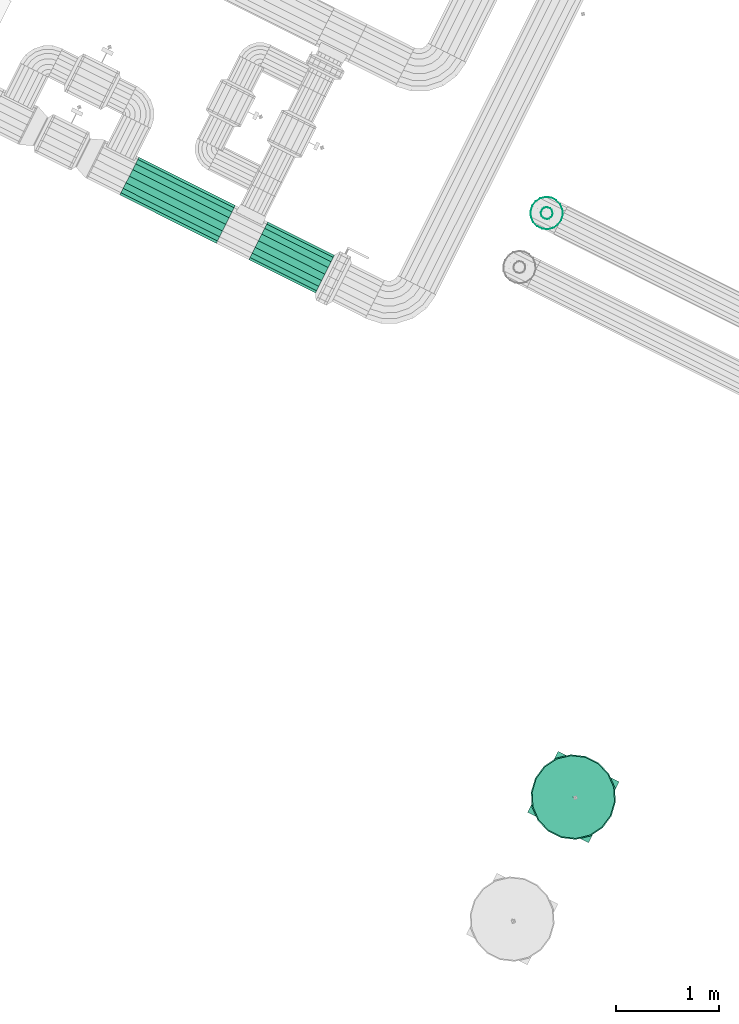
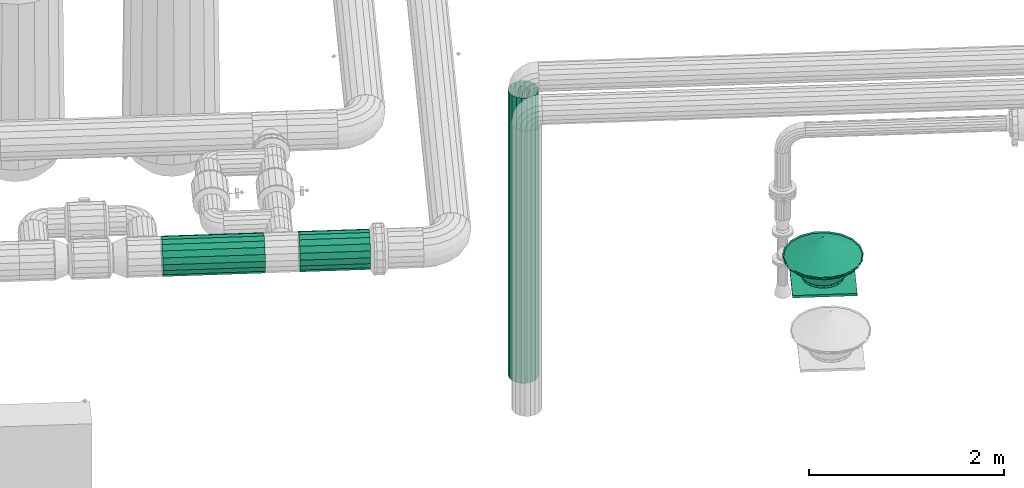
# One storey, part 3 of 152: 3 flow segments, 1 flow moving device.
"""IFC2X3 building model written with IfcOpenShell, lengths in metres."""

from ifc_helpers import new_model, si_unit, derived_unit, direction, frame, origin, place, context, subcontext, project, spatial, face_set, surface_model, source, transform, mapped, material, type_object, type_shapes, element, save


model = new_model("IFC2X3")

# Units and contexts
model_context = context("Model", 3, precision=5.2338327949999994e-05, world=origin(), true_north=direction((0.0, 1.0)))
body_context = subcontext(model_context, "Body", "Model", "MODEL_VIEW")
ifc_project = project(units=[si_unit("LENGTHUNIT", "METRE"), si_unit("AREAUNIT", "SQUARE_METRE"), si_unit("VOLUMEUNIT", "CUBIC_METRE"), si_unit("MASSUNIT", "GRAM", prefix="KILO"), si_unit("PLANEANGLEUNIT", "RADIAN"), derived_unit("THERMALTRANSMITTANCEUNIT", [(si_unit("MASSUNIT", "GRAM", prefix="KILO"), 1), (si_unit("THERMODYNAMICTEMPERATUREUNIT", "KELVIN"), -1), (si_unit("TIMEUNIT", "SECOND"), -3)])], contexts=[model_context])

# Site, building, storey
site_placement = place(None, frame((0.0, 0.0, 0.0), z_axis=(0.0, 0.0, 1.0), x_axis=(0.8939966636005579, -0.4480736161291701, 0.0)))
site = spatial("IfcSite", under=ifc_project, at=site_placement, Name="Default", CompositionType="ELEMENT")
building_placement = place(site_placement, origin())
building = spatial("IfcBuilding", under=site, at=building_placement, CompositionType="ELEMENT")
storey_placement = place(building_placement, frame((0.0, 0.0, 2.7499999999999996)))
storey = spatial("IfcBuildingStorey", under=building, at=storey_placement, Name="1. Obergeschoss", CompositionType="ELEMENT", Elevation=2.7499999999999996)

# Flow segments
ifc_material_1 = material(Name="IfcSurfaceStyle #1741")
distribution_element_type_1 = type_object("IfcDistributionElementType", Name="Stahlrohr nach DIN 2448:Stahlrohr nach DIN 2448", material=ifc_material_1)
shared_shape_1 = source(origin(), body_context, "Body", "SurfaceModel", [
    surface_model("IfcFaceBasedSurfaceModel", [(17.5690824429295, 7.355919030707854, 2.95), (17.57252900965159, 7.336372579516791, 2.95), (17.57252900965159, 7.336372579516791, 6.518000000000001), (17.5690824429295, 7.355919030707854, 6.518000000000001), (17.582453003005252, 7.319183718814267, 2.95), (17.582453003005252, 7.319183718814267, 6.518000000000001), (17.5976574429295, 7.306425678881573, 2.95), (17.5976574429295, 7.306425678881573, 6.518000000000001), (17.616308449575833, 7.299637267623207, 2.95), (17.616308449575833, 7.299637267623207, 6.518000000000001), (17.636156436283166, 7.299637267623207, 2.95), (17.636156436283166, 7.299637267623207, 6.518000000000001), (17.654807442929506, 7.306425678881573, 2.95), (17.654807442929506, 7.306425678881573, 6.518000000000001), (17.67001188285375, 7.319183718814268, 2.95), (17.67001188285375, 7.319183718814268, 6.518000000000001), (17.679935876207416, 7.336372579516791, 2.95), (17.679935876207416, 7.336372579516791, 6.518000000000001), (17.6833824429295, 7.355919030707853, 2.95), (17.6833824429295, 7.355919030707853, 6.518000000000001), (17.679935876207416, 7.375465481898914, 2.95), (17.679935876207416, 7.375465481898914, 6.518000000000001), (17.67001188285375, 7.392654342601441, 2.95), (17.67001188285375, 7.392654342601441, 6.518000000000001), (17.654807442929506, 7.405412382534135, 2.95), (17.654807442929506, 7.405412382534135, 6.518000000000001), (17.63615643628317, 7.412200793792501, 2.95), (17.63615643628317, 7.412200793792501, 6.518000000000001), (17.616308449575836, 7.4122007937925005, 2.95), (17.616308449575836, 7.4122007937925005, 6.518000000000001), (17.597657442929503, 7.405412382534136, 2.95), (17.597657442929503, 7.405412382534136, 6.518000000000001), (17.582453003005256, 7.39265434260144, 2.95), (17.582453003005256, 7.39265434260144, 6.518000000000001), (17.57252900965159, 7.375465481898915, 2.95), (17.57252900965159, 7.375465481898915, 6.518000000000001), (17.4690824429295, 7.355919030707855, 2.95), (17.478559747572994, 7.302170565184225, 2.95), (17.478559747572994, 7.302170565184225, 6.518000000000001), (17.4690824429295, 7.355919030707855, 6.518000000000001), (17.505848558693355, 7.254904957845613, 2.95), (17.505848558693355, 7.254904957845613, 6.518000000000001), (17.547657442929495, 7.219823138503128, 2.95), (17.547657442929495, 7.219823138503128, 6.518000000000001), (17.598943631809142, 7.201156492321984, 2.95), (17.598943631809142, 7.201156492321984, 6.518000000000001), (17.653521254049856, 7.201156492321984, 2.95), (17.653521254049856, 7.201156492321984, 6.518000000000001), (17.704807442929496, 7.21982313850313, 2.95), (17.704807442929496, 7.21982313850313, 6.518000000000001), (17.746616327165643, 7.254904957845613, 2.95), (17.746616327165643, 7.254904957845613, 6.518000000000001), (17.773905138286, 7.302170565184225, 2.95), (17.773905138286, 7.302170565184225, 6.518000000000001), (17.783382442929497, 7.355919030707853, 2.95), (17.783382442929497, 7.355919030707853, 6.518000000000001), (17.773905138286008, 7.409667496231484, 2.95), (17.773905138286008, 7.409667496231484, 6.518000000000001), (17.746616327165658, 7.456933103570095, 2.95), (17.746616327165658, 7.456933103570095, 6.518000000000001), (17.70480744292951, 7.492014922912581, 2.95), (17.70480744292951, 7.492014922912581, 6.518000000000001), (17.65352125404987, 7.510681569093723, 2.95), (17.65352125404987, 7.510681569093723, 6.518000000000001), (17.598943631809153, 7.510681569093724, 2.95), (17.598943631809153, 7.510681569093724, 6.518000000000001), (17.547657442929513, 7.49201492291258, 2.95), (17.547657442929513, 7.49201492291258, 6.518000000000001), (17.505848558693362, 7.456933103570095, 2.95), (17.505848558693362, 7.456933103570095, 6.518000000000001), (17.478559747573, 7.409667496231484, 2.95), (17.478559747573, 7.409667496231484, 6.518000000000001)], [face_set([[[0, 1, 2, 3]], [[1, 4, 5, 2]], [[4, 6, 7, 5]], [[6, 8, 9, 7]], [[8, 10, 11, 9]], [[10, 12, 13, 11]], [[12, 14, 15, 13]], [[14, 16, 17, 15]], [[16, 18, 19, 17]], [[18, 20, 21, 19]], [[20, 22, 23, 21]], [[22, 24, 25, 23]], [[24, 26, 27, 25]], [[26, 28, 29, 27]], [[28, 30, 31, 29]], [[30, 32, 33, 31]], [[32, 34, 35, 33]], [[34, 0, 3, 35]], [[36, 37, 38, 39]], [[37, 40, 41, 38]], [[40, 42, 43, 41]], [[42, 44, 45, 43]], [[44, 46, 47, 45]], [[46, 48, 49, 47]], [[48, 50, 51, 49]], [[50, 52, 53, 51]], [[52, 54, 55, 53]], [[54, 56, 57, 55]], [[56, 58, 59, 57]], [[58, 60, 61, 59]], [[60, 62, 63, 61]], [[62, 64, 65, 63]], [[64, 66, 67, 65]], [[66, 68, 69, 67]], [[68, 70, 71, 69]], [[70, 36, 39, 71]]])]),
])
type_shapes(distribution_element_type_1, [shared_shape_1])
flow_segment_1_placement = place(storey_placement, frame((0.0, 0.0, -2.7499999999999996)))
element("IfcFlowSegment", 1, at=flow_segment_1_placement, inside=storey, type_object=distribution_element_type_1, material=ifc_material_1, Name="Stahlrohr nach DIN 2448", ObjectType="Stahlrohr nach DIN 2448", context=body_context, shape_type="MappedRepresentation", body=[
    mapped(shared_shape_1, transform((0.0, 0.0, 0.0), scale=1.0)),
])
ifc_material_2 = material(Name="IfcSurfaceStyle #9317")
distribution_element_type_2 = type_object("IfcDistributionElementType", Name="Stahlrohr nach DIN 2448 268030:Stahlrohr nach DIN 2448 268030", material=ifc_material_2)
shared_shape_2 = source(origin(), body_context, "Body", "SurfaceModel", [
    surface_model("IfcFaceBasedSurfaceModel", [(15.959297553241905, 5.856787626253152, 5.52609078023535), (15.959297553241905, 5.819319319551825, 5.532697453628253), (15.23524256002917, 5.819319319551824, 5.532697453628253), (15.23524256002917, 5.856787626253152, 5.52609078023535), (15.959297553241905, 5.786370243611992, 5.551720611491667), (15.23524256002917, 5.786370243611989, 5.5517206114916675), (15.959297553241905, 5.761914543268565, 5.58086578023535), (15.23524256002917, 5.761914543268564, 5.58086578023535), (15.959297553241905, 5.748901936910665, 5.616617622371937), (15.23524256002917, 5.748901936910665, 5.616617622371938), (15.959297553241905, 5.748901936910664, 5.654663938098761), (15.23524256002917, 5.748901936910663, 5.654663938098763), (15.959297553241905, 5.761914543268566, 5.690415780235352), (15.23524256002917, 5.761914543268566, 5.690415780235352), (15.959297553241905, 5.786370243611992, 5.719560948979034), (15.23524256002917, 5.786370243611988, 5.719560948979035), (15.959297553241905, 5.819319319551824, 5.738584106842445), (15.23524256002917, 5.819319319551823, 5.738584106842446), (15.959297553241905, 5.856787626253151, 5.745190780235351), (15.23524256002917, 5.856787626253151, 5.745190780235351), (15.959297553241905, 5.8942559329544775, 5.7385841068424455), (15.23524256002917, 5.894255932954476, 5.7385841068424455), (15.959297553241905, 5.927205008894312, 5.719560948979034), (15.23524256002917, 5.927205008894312, 5.719560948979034), (15.959297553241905, 5.951660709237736, 5.690415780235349), (15.23524256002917, 5.951660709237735, 5.690415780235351), (15.959297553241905, 5.964673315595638, 5.654663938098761), (15.23524256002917, 5.964673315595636, 5.6546639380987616), (15.959297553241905, 5.96467331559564, 5.616617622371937), (15.23524256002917, 5.964673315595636, 5.616617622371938), (15.959297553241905, 5.951660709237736, 5.580865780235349), (15.23524256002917, 5.951660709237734, 5.58086578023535), (15.959297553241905, 5.927205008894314, 5.551720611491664), (15.23524256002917, 5.927205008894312, 5.551720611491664), (15.959297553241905, 5.894255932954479, 5.532697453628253), (15.23524256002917, 5.8942559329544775, 5.532697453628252), (15.959297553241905, 5.856787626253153, 5.426090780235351), (15.959297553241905, 5.785117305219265, 5.438728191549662), (15.23524256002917, 5.785117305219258, 5.438728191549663), (15.23524256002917, 5.856787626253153, 5.426090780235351), (15.959297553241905, 5.7220914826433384, 5.475116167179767), (15.23524256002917, 5.722091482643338, 5.475116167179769), (15.959297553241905, 5.675312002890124, 5.530865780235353), (15.23524256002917, 5.675312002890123, 5.53086578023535), (15.959297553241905, 5.650421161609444, 5.599252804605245), (15.23524256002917, 5.650421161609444, 5.599252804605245), (15.959297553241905, 5.650421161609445, 5.6720287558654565), (15.23524256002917, 5.650421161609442, 5.672028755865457), (15.959297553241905, 5.675312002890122, 5.74041578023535), (15.23524256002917, 5.675312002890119, 5.740415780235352), (15.959297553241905, 5.722091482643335, 5.796165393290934), (15.23524256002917, 5.722091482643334, 5.796165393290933), (15.959297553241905, 5.7851173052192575, 5.832553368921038), (15.23524256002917, 5.785117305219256, 5.832553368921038), (15.959297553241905, 5.856787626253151, 5.845190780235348), (15.23524256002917, 5.85678762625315, 5.84519078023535), (15.959297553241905, 5.928457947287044, 5.832553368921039), (15.23524256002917, 5.928457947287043, 5.832553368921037), (15.959297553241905, 5.991483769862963, 5.796165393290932), (15.23524256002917, 5.991483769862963, 5.796165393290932), (15.959297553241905, 6.03826324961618, 5.740415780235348), (15.23524256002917, 6.038263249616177, 5.74041578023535), (15.959297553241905, 6.06315409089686, 5.672028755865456), (15.23524256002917, 6.063154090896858, 5.672028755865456), (15.959297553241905, 6.06315409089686, 5.5992528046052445), (15.23524256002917, 6.063154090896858, 5.5992528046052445), (15.959297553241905, 6.038263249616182, 5.53086578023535), (15.23524256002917, 6.03826324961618, 5.530865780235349), (15.959297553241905, 5.991483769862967, 5.475116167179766), (15.23524256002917, 5.991483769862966, 5.475116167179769), (15.959297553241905, 5.928457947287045, 5.438728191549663), (15.23524256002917, 5.928457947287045, 5.438728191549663)], [face_set([[[0, 1, 2, 3]], [[1, 4, 5, 2]], [[4, 6, 7, 5]], [[6, 8, 9, 7]], [[8, 10, 11, 9]], [[10, 12, 13, 11]], [[12, 14, 15, 13]], [[14, 16, 17, 15]], [[16, 18, 19, 17]], [[18, 20, 21, 19]], [[20, 22, 23, 21]], [[22, 24, 25, 23]], [[24, 26, 27, 25]], [[26, 28, 29, 27]], [[28, 30, 31, 29]], [[30, 32, 33, 31]], [[32, 34, 35, 33]], [[34, 0, 3, 35]], [[36, 37, 38, 39]], [[37, 40, 41, 38]], [[40, 42, 43, 41]], [[42, 44, 45, 43]], [[44, 46, 47, 45]], [[46, 48, 49, 47]], [[48, 50, 51, 49]], [[50, 52, 53, 51]], [[52, 54, 55, 53]], [[54, 56, 57, 55]], [[56, 58, 59, 57]], [[58, 60, 61, 59]], [[60, 62, 63, 61]], [[62, 64, 65, 63]], [[64, 66, 67, 65]], [[66, 68, 69, 67]], [[68, 70, 71, 69]], [[70, 36, 39, 71]]])]),
])
type_shapes(distribution_element_type_2, [shared_shape_2])
flow_segment_2_placement = place(storey_placement, frame((0.0, 0.0, -2.7499999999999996)))
element("IfcFlowSegment", 2, at=flow_segment_2_placement, inside=storey, type_object=distribution_element_type_2, material=ifc_material_2, Name="Stahlrohr nach DIN 2448", ObjectType="Stahlrohr nach DIN 2448", context=body_context, shape_type="MappedRepresentation", body=[
    mapped(shared_shape_2, transform((0.0, 0.0, 0.0), scale=1.0)),
])
distribution_element_type_3 = type_object("IfcDistributionElementType", Name="Stahlrohr nach DIN 2448 268311:Stahlrohr nach DIN 2448 268311", material=ifc_material_2)
shared_shape_3 = source(origin(), body_context, "Body", "SurfaceModel", [
    surface_model("IfcFaceBasedSurfaceModel", [(14.879242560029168, 5.856787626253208, 5.745190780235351), (14.879242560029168, 5.894255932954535, 5.738584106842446), (13.827928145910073, 5.894255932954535, 5.738584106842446), (13.827928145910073, 5.85678762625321, 5.74519078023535), (14.879242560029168, 5.927205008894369, 5.719560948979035), (13.827928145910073, 5.92720500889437, 5.719560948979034), (14.879242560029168, 5.951660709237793, 5.690415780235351), (13.827928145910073, 5.951660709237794, 5.690415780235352), (14.879242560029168, 5.964673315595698, 5.654663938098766), (13.827928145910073, 5.9646733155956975, 5.654663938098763), (14.879242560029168, 5.9646733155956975, 5.616617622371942), (13.827928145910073, 5.9646733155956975, 5.616617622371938), (14.879242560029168, 5.951660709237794, 5.58086578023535), (13.827928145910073, 5.951660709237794, 5.58086578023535), (14.879242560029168, 5.92720500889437, 5.551720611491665), (13.827928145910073, 5.927205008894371, 5.5517206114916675), (14.879242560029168, 5.894255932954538, 5.5326974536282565), (13.827928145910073, 5.894255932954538, 5.532697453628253), (14.879242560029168, 5.856787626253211, 5.526090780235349), (13.827928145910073, 5.856787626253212, 5.52609078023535), (14.879242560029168, 5.819319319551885, 5.532697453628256), (13.827928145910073, 5.819319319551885, 5.532697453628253), (14.879242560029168, 5.78637024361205, 5.551720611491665), (13.827928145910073, 5.786370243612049, 5.551720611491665), (14.879242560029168, 5.761914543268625, 5.58086578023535), (13.827928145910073, 5.761914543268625, 5.580865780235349), (14.879242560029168, 5.748901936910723, 5.616617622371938), (13.827928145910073, 5.748901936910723, 5.616617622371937), (14.879242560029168, 5.748901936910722, 5.6546639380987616), (13.827928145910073, 5.748901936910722, 5.654663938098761), (14.879242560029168, 5.761914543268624, 5.690415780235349), (13.827928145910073, 5.761914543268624, 5.690415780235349), (14.879242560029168, 5.786370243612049, 5.719560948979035), (13.827928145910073, 5.786370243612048, 5.7195609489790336), (14.879242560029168, 5.819319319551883, 5.738584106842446), (13.827928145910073, 5.819319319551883, 5.738584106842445), (14.879242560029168, 5.856787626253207, 5.845190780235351), (14.879242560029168, 5.928457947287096, 5.832553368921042), (13.827928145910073, 5.928457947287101, 5.832553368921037), (13.827928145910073, 5.856787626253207, 5.845190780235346), (14.879242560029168, 5.991483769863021, 5.796165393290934), (13.827928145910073, 5.991483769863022, 5.796165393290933), (14.879242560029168, 6.038263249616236, 5.74041578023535), (13.827928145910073, 6.038263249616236, 5.740415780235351), (14.879242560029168, 6.063154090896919, 5.672028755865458), (13.827928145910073, 6.0631540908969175, 5.672028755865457), (14.879242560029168, 6.063154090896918, 5.599252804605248), (13.827928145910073, 6.063154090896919, 5.599252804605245), (14.879242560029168, 6.03826324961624, 5.530865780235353), (13.827928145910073, 6.03826324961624, 5.530865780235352), (14.879242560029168, 5.991483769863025, 5.4751161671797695), (13.827928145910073, 5.991483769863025, 5.4751161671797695), (14.879242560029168, 5.928457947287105, 5.438728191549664), (13.827928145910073, 5.928457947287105, 5.438728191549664), (14.879242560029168, 5.856787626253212, 5.426090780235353), (13.827928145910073, 5.856787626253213, 5.426090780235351), (14.879242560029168, 5.785117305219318, 5.438728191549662), (13.827928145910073, 5.785117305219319, 5.438728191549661), (14.879242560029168, 5.722091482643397, 5.475116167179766), (13.827928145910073, 5.722091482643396, 5.475116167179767), (14.879242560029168, 5.6753120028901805, 5.530865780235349), (13.827928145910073, 5.675312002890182, 5.530865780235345), (14.879242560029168, 5.6504211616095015, 5.599252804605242), (13.827928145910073, 5.6504211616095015, 5.599252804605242), (14.879242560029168, 5.6504211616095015, 5.672028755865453), (13.827928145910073, 5.650421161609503, 5.672028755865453), (14.879242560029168, 5.675312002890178, 5.740415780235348), (13.827928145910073, 5.675312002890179, 5.740415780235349), (14.879242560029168, 5.7220914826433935, 5.796165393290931), (13.827928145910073, 5.7220914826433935, 5.796165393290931), (14.879242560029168, 5.785117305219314, 5.832553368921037), (13.827928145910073, 5.785117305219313, 5.832553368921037)], [face_set([[[0, 1, 2, 3]], [[1, 4, 5, 2]], [[4, 6, 7, 5]], [[6, 8, 9, 7]], [[8, 10, 11, 9]], [[10, 12, 13, 11]], [[12, 14, 15, 13]], [[14, 16, 17, 15]], [[16, 18, 19, 17]], [[18, 20, 21, 19]], [[20, 22, 23, 21]], [[22, 24, 25, 23]], [[24, 26, 27, 25]], [[26, 28, 29, 27]], [[28, 30, 31, 29]], [[30, 32, 33, 31]], [[32, 34, 35, 33]], [[34, 0, 3, 35]], [[36, 37, 38, 39]], [[37, 40, 41, 38]], [[40, 42, 43, 41]], [[42, 44, 45, 43]], [[44, 46, 47, 45]], [[46, 48, 49, 47]], [[48, 50, 51, 49]], [[50, 52, 53, 51]], [[52, 54, 55, 53]], [[54, 56, 57, 55]], [[56, 58, 59, 57]], [[58, 60, 61, 59]], [[60, 62, 63, 61]], [[62, 64, 65, 63]], [[64, 66, 67, 65]], [[66, 68, 69, 67]], [[68, 70, 71, 69]], [[70, 36, 39, 71]]])]),
])
type_shapes(distribution_element_type_3, [shared_shape_3])
flow_segment_3_placement = place(storey_placement, frame((0.0, 0.0, -2.7499999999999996)))
element("IfcFlowSegment", 3, at=flow_segment_3_placement, inside=storey, type_object=distribution_element_type_3, material=ifc_material_2, Name="Stahlrohr nach DIN 2448", ObjectType="Stahlrohr nach DIN 2448", context=body_context, shape_type="MappedRepresentation", body=[
    mapped(shared_shape_3, transform((0.0, 0.0, 0.0), scale=1.0)),
])

# Flow moving device
ifc_material_3 = material(Name="IfcSurfaceStyle #271082")
distribution_element_type_4 = type_object("IfcDistributionElementType", Name="Dachventilator Rund 271102:Dachventilator Rund 271102", material=ifc_material_3)
shared_shape_4 = source(origin(), body_context, "Body", "SurfaceModel", [
    surface_model("IfcFaceBasedSurfaceModel", [(20.074394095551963, 2.053152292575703, 7.514089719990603), (20.074394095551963, 2.053152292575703, 7.544089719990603), (20.074394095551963, 2.718152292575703, 7.544089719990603), (20.074394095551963, 2.718152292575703, 7.514089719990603), (20.739394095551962, 2.718152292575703, 7.544089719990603), (20.739394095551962, 2.718152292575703, 7.514089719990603), (20.739394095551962, 2.053152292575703, 7.544089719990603), (20.739394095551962, 2.053152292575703, 7.514089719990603), (20.40689409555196, 2.6046522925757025, 7.544089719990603), (20.33199168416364, 2.591444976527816, 7.544089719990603), (20.33199168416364, 2.591444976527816, 7.574089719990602), (20.40689409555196, 2.6046522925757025, 7.574089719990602), (20.266123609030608, 2.553416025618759, 7.544089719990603), (20.266123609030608, 2.553416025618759, 7.574089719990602), (20.217234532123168, 2.495152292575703, 7.544089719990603), (20.217234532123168, 2.495152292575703, 7.574089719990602), (20.19122119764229, 2.4236812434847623, 7.544089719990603), (20.19122119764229, 2.4236812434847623, 7.574089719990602), (20.19122119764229, 2.347623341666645, 7.544089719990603), (20.19122119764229, 2.347623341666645, 7.574089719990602), (20.217234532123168, 2.276152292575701, 7.544089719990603), (20.217234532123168, 2.276152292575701, 7.574089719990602), (20.266123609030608, 2.2178885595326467, 7.544089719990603), (20.266123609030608, 2.2178885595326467, 7.574089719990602), (20.33199168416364, 2.1798596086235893, 7.544089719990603), (20.33199168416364, 2.1798596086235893, 7.574089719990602), (20.40689409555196, 2.1666522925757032, 7.544089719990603), (20.40689409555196, 2.1666522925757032, 7.574089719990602), (20.48179650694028, 2.1798596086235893, 7.544089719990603), (20.48179650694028, 2.1798596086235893, 7.574089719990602), (20.547664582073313, 2.2178885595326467, 7.544089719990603), (20.547664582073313, 2.2178885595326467, 7.574089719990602), (20.59655365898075, 2.276152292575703, 7.544089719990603), (20.59655365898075, 2.276152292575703, 7.574089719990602), (20.622566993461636, 2.347623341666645, 7.544089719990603), (20.622566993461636, 2.347623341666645, 7.574089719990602), (20.622566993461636, 2.423681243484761, 7.544089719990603), (20.622566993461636, 2.423681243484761, 7.574089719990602), (20.59655365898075, 2.495152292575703, 7.544089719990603), (20.59655365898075, 2.495152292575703, 7.574089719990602), (20.547664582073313, 2.553416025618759, 7.544089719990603), (20.547664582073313, 2.553416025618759, 7.574089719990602), (20.48179650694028, 2.591444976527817, 7.544089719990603), (20.48179650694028, 2.591444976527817, 7.574089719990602), (20.18789409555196, 2.385652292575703, 7.574089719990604), (20.201101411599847, 2.3107498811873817, 7.574089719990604), (20.016921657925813, 2.2437139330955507, 7.814089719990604), (19.991894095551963, 2.3856522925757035, 7.814089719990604), (20.239130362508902, 2.244881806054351, 7.574089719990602), (20.088985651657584, 2.1188954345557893, 7.814089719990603), (20.297394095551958, 2.1959927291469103, 7.574089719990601), (20.199394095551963, 2.02625175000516, 7.814089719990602), (20.368865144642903, 2.16997939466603, 7.574089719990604), (20.33483010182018, 1.9769570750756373, 7.814089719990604), (20.44492304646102, 2.1699793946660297, 7.574089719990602), (20.478958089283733, 1.9769570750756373, 7.814089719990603), (20.51639409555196, 2.1959927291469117, 7.574089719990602), (20.614394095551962, 2.0262517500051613, 7.814089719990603), (20.574657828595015, 2.2448818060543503, 7.574089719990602), (20.724802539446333, 2.118895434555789, 7.814089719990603), (20.612686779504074, 2.310749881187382, 7.574089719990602), (20.796866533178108, 2.2437139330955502, 7.814089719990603), (20.625894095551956, 2.385652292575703, 7.574089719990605), (20.821894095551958, 2.3856522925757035, 7.814089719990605), (20.612686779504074, 2.460554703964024, 7.574089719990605), (20.796866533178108, 2.527590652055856, 7.814089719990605), (20.574657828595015, 2.5264227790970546, 7.574089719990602), (20.724802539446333, 2.652409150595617, 7.814089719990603), (20.51639409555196, 2.575311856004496, 7.574089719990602), (20.614394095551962, 2.7450528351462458, 7.814089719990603), (20.44492304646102, 2.601325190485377, 7.574089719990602), (20.478958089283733, 2.7943475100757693, 7.814089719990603), (20.368865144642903, 2.6013251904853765, 7.574089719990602), (20.33483010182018, 2.794347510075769, 7.814089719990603), (20.297394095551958, 2.575311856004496, 7.574089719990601), (20.199394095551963, 2.745052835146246, 7.814089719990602), (20.239130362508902, 2.526422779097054, 7.574089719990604), (20.088985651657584, 2.6524091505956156, 7.814089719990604), (20.201101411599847, 2.460554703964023, 7.574089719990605), (20.016921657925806, 2.527590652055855, 7.814089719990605), (20.40689409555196, 2.8006522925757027, 7.784089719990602), (20.264955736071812, 2.7756247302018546, 7.784089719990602), (20.264955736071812, 2.7756247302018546, 7.794089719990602), (20.40689409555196, 2.8006522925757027, 7.794089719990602), (20.140137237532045, 2.7035607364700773, 7.784089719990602), (20.140137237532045, 2.7035607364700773, 7.794089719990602), (20.047493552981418, 2.5931522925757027, 7.784089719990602), (20.047493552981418, 2.5931522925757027, 7.794089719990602), (19.998198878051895, 2.4577162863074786, 7.784089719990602), (19.998198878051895, 2.4577162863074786, 7.794089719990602), (19.998198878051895, 2.3135882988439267, 7.784089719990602), (19.998198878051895, 2.3135882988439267, 7.794089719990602), (20.047493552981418, 2.178152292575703, 7.784089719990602), (20.047493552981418, 2.178152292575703, 7.794089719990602), (20.140137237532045, 2.067743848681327, 7.784089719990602), (20.140137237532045, 2.067743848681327, 7.794089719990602), (20.264955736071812, 1.995679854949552, 7.784089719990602), (20.264955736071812, 1.995679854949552, 7.794089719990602), (20.40689409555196, 1.9706522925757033, 7.784089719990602), (20.40689409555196, 1.9706522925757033, 7.794089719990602), (20.548832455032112, 1.9956798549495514, 7.784089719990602), (20.548832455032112, 1.9956798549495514, 7.794089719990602), (20.673650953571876, 2.067743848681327, 7.784089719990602), (20.673650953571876, 2.067743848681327, 7.794089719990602), (20.766294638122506, 2.178152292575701, 7.784089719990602), (20.766294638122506, 2.178152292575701, 7.794089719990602), (20.815589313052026, 2.3135882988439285, 7.784089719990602), (20.815589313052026, 2.3135882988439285, 7.794089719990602), (20.815589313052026, 2.457716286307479, 7.784089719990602), (20.815589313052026, 2.457716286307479, 7.794089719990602), (20.766294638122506, 2.5931522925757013, 7.784089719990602), (20.766294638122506, 2.5931522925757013, 7.794089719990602), (20.673650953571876, 2.7035607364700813, 7.784089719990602), (20.673650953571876, 2.7035607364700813, 7.794089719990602), (20.548832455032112, 2.7756247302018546, 7.784089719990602), (20.548832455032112, 2.7756247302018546, 7.794089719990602), (19.991894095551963, 2.385652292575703, 7.794089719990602), (20.016921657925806, 2.2437139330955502, 7.794089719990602), (20.40689409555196, 2.3856522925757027, 8.034089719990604), (20.088985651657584, 2.1188954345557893, 7.794089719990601), (20.199394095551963, 2.026251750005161, 7.794089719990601), (20.33483010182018, 1.976957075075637, 7.794089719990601), (20.478958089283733, 1.9769570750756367, 7.794089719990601), (20.614394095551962, 2.026251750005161, 7.794089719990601), (20.72480253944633, 2.1188954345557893, 7.794089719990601), (20.796866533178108, 2.243713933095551, 7.7940897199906), (20.82189409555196, 2.385652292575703, 7.7940897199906), (20.796866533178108, 2.5275906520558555, 7.7940897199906), (20.724802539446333, 2.6524091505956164, 7.7940897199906), (20.614394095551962, 2.745052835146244, 7.794089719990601), (20.478958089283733, 2.794347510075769, 7.794089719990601), (20.33483010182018, 2.794347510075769, 7.794089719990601), (20.199394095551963, 2.7450528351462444, 7.794089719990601), (20.088985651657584, 2.652409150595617, 7.794089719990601), (20.016921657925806, 2.5275906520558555, 7.794089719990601)], [face_set([[[0, 1, 2, 3]], [[3, 2, 4, 5]], [[5, 4, 6, 7]], [[7, 6, 1, 0]], [[0, 3, 5, 7]], [[6, 4, 2, 1]], [[8, 9, 10, 11]], [[9, 12, 13, 10]], [[12, 14, 15, 13]], [[14, 16, 17, 15]], [[16, 18, 19, 17]], [[18, 20, 21, 19]], [[20, 22, 23, 21]], [[22, 24, 25, 23]], [[24, 26, 27, 25]], [[26, 28, 29, 27]], [[28, 30, 31, 29]], [[30, 32, 33, 31]], [[32, 34, 35, 33]], [[34, 36, 37, 35]], [[36, 38, 39, 37]], [[38, 40, 41, 39]], [[40, 42, 43, 41]], [[42, 8, 11, 43]], [[44, 45, 46, 47]], [[45, 48, 49, 46]], [[48, 50, 51, 49]], [[50, 52, 53, 51]], [[52, 54, 55, 53]], [[54, 56, 57, 55]], [[56, 58, 59, 57]], [[58, 60, 61, 59]], [[60, 62, 63, 61]], [[62, 64, 65, 63]], [[64, 66, 67, 65]], [[66, 68, 69, 67]], [[68, 70, 71, 69]], [[70, 72, 73, 71]], [[72, 74, 75, 73]], [[74, 76, 77, 75]], [[76, 78, 79, 77]], [[78, 44, 47, 79]], [[80, 81, 82, 83]], [[81, 84, 85, 82]], [[84, 86, 87, 85]], [[86, 88, 89, 87]], [[88, 90, 91, 89]], [[90, 92, 93, 91]], [[92, 94, 95, 93]], [[94, 96, 97, 95]], [[96, 98, 99, 97]], [[98, 100, 101, 99]], [[100, 102, 103, 101]], [[102, 104, 105, 103]], [[104, 106, 107, 105]], [[106, 108, 109, 107]], [[108, 110, 111, 109]], [[110, 112, 113, 111]], [[112, 114, 115, 113]], [[114, 80, 83, 115]], [[116, 117, 118]], [[117, 119, 118]], [[119, 120, 118]], [[120, 121, 118]], [[121, 122, 118]], [[122, 123, 118]], [[123, 124, 118]], [[124, 125, 118]], [[125, 126, 118]], [[126, 127, 118]], [[127, 128, 118]], [[128, 129, 118]], [[129, 130, 118]], [[130, 131, 118]], [[131, 132, 118]], [[132, 133, 118]], [[133, 134, 118]], [[134, 116, 118]]])]),
])
type_shapes(distribution_element_type_4, [shared_shape_4])
flow_moving_device_placement = place(storey_placement, frame((0.0, 0.0, -2.7499999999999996)))
element("IfcFlowMovingDevice", 4, at=flow_moving_device_placement, inside=storey, type_object=distribution_element_type_4, material=ifc_material_3, Name="Dachventilator Rund", ObjectType="Dachventilator Rund", context=body_context, shape_type="MappedRepresentation", body=[
    mapped(shared_shape_4, transform((0.0, 0.0, 0.0), scale=1.0)),
])

save(model, "model.ifc")
